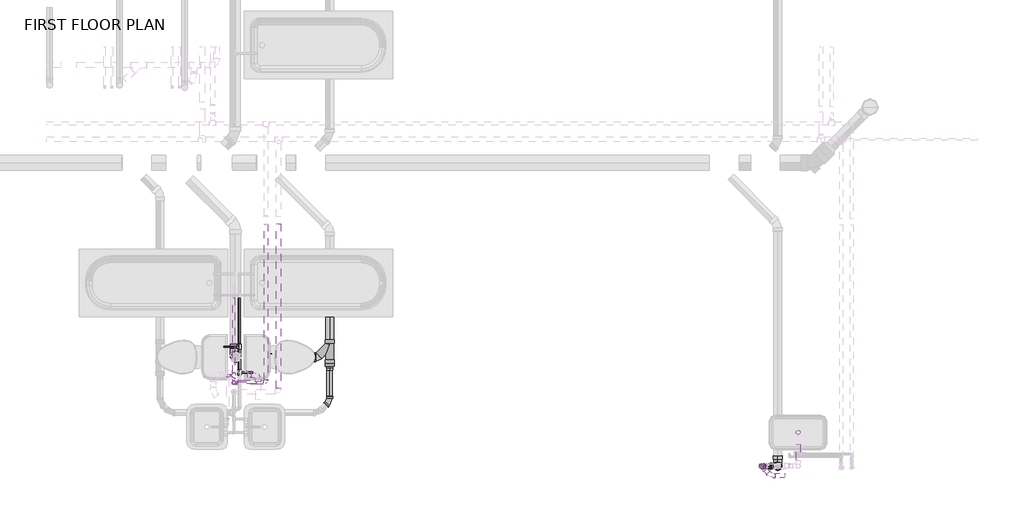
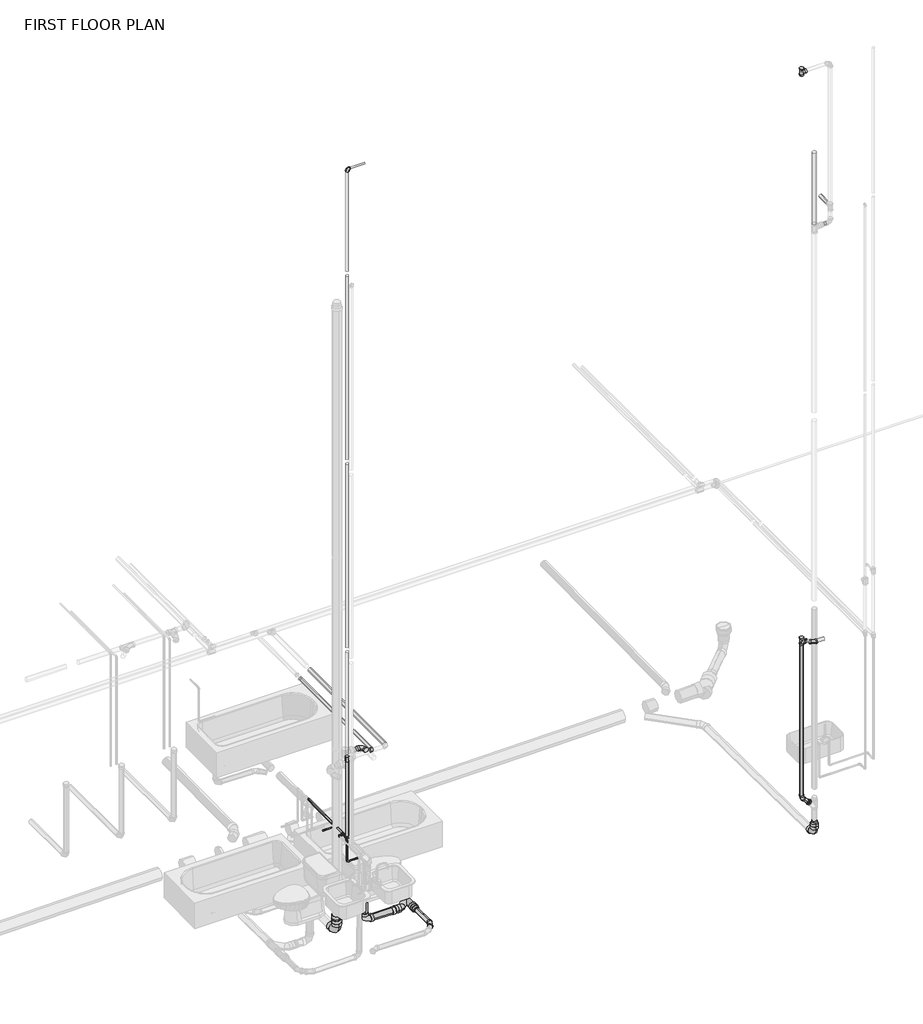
# One storey, part 22 of 29: 30 pipe fittings, 30 pipe segments.
"""IFC4 building model written with IfcOpenShell, lengths in millimetres."""

from ifc_helpers import new_model, si_unit, point, frame, frame_2d, origin, place, context, project, spatial, circle_curve, trimmed, segment, composite_curve, outline, extrude, transform, mapped, element, save
from components import bend_pvc_sch_40_dwv_standard_ddf7f1b2, bend_pvc_sch_40_dwv_standard_9a61ab34, bend_pvc_sch_40_dwv_standard_07560f8e, bend_pvc_sch_40_dwv_standard_577ceb7d, bend_pvc_sch_40_dwv_standard_00a057dc, bend_pvc_sch_40_dwv_standard_48e93688, bend_pvc_sch_40_dwv_standard_1fb0f857, pipe_elbow_copper_k_557be1fc, pipe_elbow_copper_k_feaaf02c, pipe_elbow_copper_k_aad62f2d, pipe_tee_copper_k_7127fd44, pipe_tee_copper_k_ee363fbf, pipe_tee_copper_k_feafe2f1, pipe_transition_copper_k_b4f16853, pipe_transition_copper_k_b63fd5dd, pipe_transition_copper_k_92c68de2, pipe_transition_copper_k_614bbec4, pipe_transition_copper_k_a236e899, reducer_pvc_sch_40_dwv_standard_b23fa098, reducer_pvc_sch_40_dwv_standard_f8e5081b, reducer_pvc_sch_40_dwv_standard_091619c8, reducer_pvc_sch_40_dwv_standard_716ddad6, standard_97f78eeb, tee_sanitary_pvc_sch_40_dwv_standard_31acfb72, tee_sanitary_pvc_sch_40_dwv_standard_70a8f0c3

model = new_model("IFC4")

# Units and contexts
model_context = context("Model", 3, world=origin())
ifc_project = project(units=[si_unit("LENGTHUNIT", "METRE", prefix="MILLI")], contexts=[model_context])

# Site, building, storey
site = spatial("IfcSite", under=ifc_project)
building = spatial("IfcBuilding", under=site)
storey = spatial("IfcBuildingStorey", under=building, Name="FIRST FLOOR PLAN", Elevation=0.0)

# Pipe fittings
placement = place(None, origin())
bend_pvc_sch_40_dwv_standard_shape = bend_pvc_sch_40_dwv_standard_ddf7f1b2(model_context)
element("IfcPipeFitting", 1, ObjectType="Bend - PVC - Sch 40 - DWV : Standard", at=placement, inside=storey, context=model_context, shape_type="MappedRepresentation", body=[
    mapped(bend_pvc_sch_40_dwv_standard_shape, transform((23061.4905896, 2089.9349386, -292.0344958), x_axis=(0.0, 0.0, -1.0), y_axis=(0.0, -1.0, 0.0), z_axis=(-1.0, 0.0, 0.0))),
])
bend_pvc_sch_40_dwv_standard_2_shape = bend_pvc_sch_40_dwv_standard_9a61ab34(model_context)
element("IfcPipeFitting", 2, ObjectType="Bend - PVC - Sch 40 - DWV : Standard", at=placement, inside=storey, context=model_context, shape_type="MappedRepresentation", body=[
    mapped(bend_pvc_sch_40_dwv_standard_2_shape, transform((22985.4285818, 1981.9339371, 2685.810937), x_axis=(-0.9999457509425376, 0.0, 0.010416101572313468), y_axis=(-4.542044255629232e-05, -0.9999904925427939, -0.004360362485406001), z_axis=(0.010416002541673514, -0.004360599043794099, 0.9999362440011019))),
])
bend_pvc_sch_40_dwv_standard_3_shape = bend_pvc_sch_40_dwv_standard_07560f8e(model_context)
element("IfcPipeFitting", 3, ObjectType="Bend - PVC - Sch 40 - DWV : Standard", at=placement, inside=storey, context=model_context, shape_type="MappedRepresentation", body=[
    mapped(bend_pvc_sch_40_dwv_standard_3_shape, transform((22877.6611988, 2088.8641446, 306.199447), x_axis=(0.0, 0.0, -1.0), y_axis=(-0.9999896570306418, -0.004548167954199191, 0.0), z_axis=(-0.004548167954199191, 0.9999896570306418, 0.0))),
])
bend_pvc_sch_40_dwv_standard_4_shape = bend_pvc_sch_40_dwv_standard_577ceb7d(model_context)
element("IfcPipeFitting", 4, ObjectType="Bend - PVC - Sch 40 - DWV : Standard", at=placement, inside=storey, context=model_context, shape_type="MappedRepresentation", body=[
    mapped(bend_pvc_sch_40_dwv_standard_4_shape, transform((18002.3665158, 2820.2387853, -343.5935323), x_axis=(0.0, -0.9999457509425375, 0.010416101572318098), y_axis=(0.9999906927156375, -4.493975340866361e-05, -0.004314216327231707), z_axis=(0.004314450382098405, 0.010416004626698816, 0.9999364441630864))),
])
bend_pvc_sch_40_dwv_standard_5_shape = bend_pvc_sch_40_dwv_standard_00a057dc(model_context)
element("IfcPipeFitting", 5, ObjectType="Bend - PVC - Sch 40 - DWV : Standard", at=placement, inside=storey, context=model_context, shape_type="MappedRepresentation", body=[
    mapped(bend_pvc_sch_40_dwv_standard_5_shape, transform((17330.0611046, 3320.3882896, -344.5003101), x_axis=(0.0, -5.143823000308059e-07, -0.9999999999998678), y_axis=(-1.0, -5.358148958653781e-09, 0.0), z_axis=(-5.35814895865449e-09, 0.9999999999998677, -5.143823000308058e-07))),
])
bend_pvc_sch_40_dwv_standard_6_shape = bend_pvc_sch_40_dwv_standard_48e93688(model_context)
element("IfcPipeFitting", 6, ObjectType="Bend - PVC - Sch 40 - DWV : Standard", at=placement, inside=storey, context=model_context, shape_type="MappedRepresentation", body=[
    mapped(bend_pvc_sch_40_dwv_standard_6_shape, transform((17195.9085473, 3120.4120638, 2438.4408802), x_axis=(0.9999989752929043, 0.0, -0.0014315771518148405), y_axis=(-1.2572891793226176e-08, 0.9999999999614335, -8.782538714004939e-06), z_axis=(0.0014315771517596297, 8.782547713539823e-06, 0.9999989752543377))),
])
bend_pvc_sch_40_dwv_standard_7_shape = bend_pvc_sch_40_dwv_standard_1fb0f857(model_context)
element("IfcPipeFitting", 7, ObjectType="Bend - PVC - Sch 40 - DWV : Standard", at=placement, inside=storey, context=model_context, shape_type="MappedRepresentation", body=[
    mapped(bend_pvc_sch_40_dwv_standard_7_shape, transform((16939.2381199, 3321.8387881, -380.8956327), x_axis=(0.0, -1.0, 0.0), y_axis=(1.76232445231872e-06, 0.0, 0.9999999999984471), z_axis=(-0.9999999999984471, 0.0, 1.76232445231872e-06))),
])
pipe_elbow_copper_k_shape = pipe_elbow_copper_k_557be1fc(model_context)
element("IfcPipeFitting", 8, ObjectType="Pipe Elbow : Copper- K", at=placement, inside=storey, context=model_context, shape_type="MappedRepresentation", body=[
    mapped(pipe_elbow_copper_k_shape, transform((17283.6898661, 3036.0137881, 2413.0), x_axis=(1.0, 0.0, 0.0), y_axis=(0.0, 1.0, 0.0), z_axis=(0.0, 0.0, 1.0))),
])
element("IfcPipeFitting", 9, ObjectType="Pipe Elbow : Copper- K", at=placement, inside=storey, context=model_context, shape_type="MappedRepresentation", body=[
    mapped(pipe_elbow_copper_k_shape, transform((16920.4834875, 3029.9911151, 11328.4), x_axis=(-1.0, 0.0, 0.0), y_axis=(0.0, 0.0, -1.0), z_axis=(0.0, -1.0, 0.0))),
])
pipe_elbow_copper_k_2_shape = pipe_elbow_copper_k_feaaf02c(model_context)
element("IfcPipeFitting", 10, ObjectType="Pipe Elbow : Copper- K", at=placement, inside=storey, context=model_context, shape_type="MappedRepresentation", body=[
    mapped(pipe_elbow_copper_k_2_shape, transform((16852.2209875, 3115.2451388, 1219.2), x_axis=(-1.0, 0.0, 0.0), y_axis=(0.0, -1.0, 0.0), z_axis=(0.0, 0.0, 1.0))),
])
element("IfcPipeFitting", 11, ObjectType="Pipe Elbow : Copper- K", at=placement, inside=storey, context=model_context, shape_type="MappedRepresentation", body=[
    mapped(pipe_elbow_copper_k_2_shape, transform((16920.4834875, 3029.9911151, 1219.2), x_axis=(0.0, -1.0, 0.0), y_axis=(0.0, 0.0, 1.0), z_axis=(-1.0, 0.0, 0.0))),
])
pipe_elbow_copper_k_3_shape = pipe_elbow_copper_k_aad62f2d(model_context)
element("IfcPipeFitting", 12, ObjectType="Pipe Elbow : Copper- K", at=placement, inside=storey, context=model_context, shape_type="MappedRepresentation", body=[
    mapped(pipe_elbow_copper_k_3_shape, transform((16983.9834875, 3144.8746817, 762.0), x_axis=(0.0, 0.0, -1.0), y_axis=(1.0, 0.0, 0.0), z_axis=(0.0, -1.0, 0.0))),
])
pipe_tee_copper_k_shape = pipe_tee_copper_k_7127fd44(model_context)
element("IfcPipeFitting", 13, ObjectType="Pipe Tee : Copper- K", at=placement, inside=storey, context=model_context, shape_type="MappedRepresentation", body=[
    mapped(pipe_tee_copper_k_shape, transform((16920.4834875, 3029.9911151, 2413.0), x_axis=(0.0, 0.0, 1.0), y_axis=(-1.0, 0.0, 0.0), z_axis=(0.0, -1.0, 0.0))),
])
pipe_tee_copper_k_2_shape = pipe_tee_copper_k_ee363fbf(model_context)
element("IfcPipeFitting", 14, ObjectType="Pipe Tee : Copper- K", at=placement, inside=storey, context=model_context, shape_type="MappedRepresentation", body=[
    mapped(pipe_tee_copper_k_2_shape, transform((16920.4834875, 3115.2451388, 1219.2), x_axis=(0.0, 1.0, 0.0), y_axis=(1.0, 0.0, 0.0), z_axis=(0.0, 0.0, -1.0))),
])
pipe_tee_copper_k_3_shape = pipe_tee_copper_k_feafe2f1(model_context)
element("IfcPipeFitting", 15, ObjectType="Pipe Tee : Copper- K", at=placement, inside=storey, context=model_context, shape_type="MappedRepresentation", body=[
    mapped(pipe_tee_copper_k_3_shape, transform((16983.9834875, 3144.8746817, 1117.6), x_axis=(0.0, -1.0, 0.0), y_axis=(0.0, 0.0, 1.0), z_axis=(-1.0, 0.0, 0.0))),
])
element("IfcPipeFitting", 16, ObjectType="Pipe Tee : Copper- K", at=placement, inside=storey, context=model_context, shape_type="MappedRepresentation", body=[
    mapped(pipe_tee_copper_k_3_shape, transform((16983.9834875, 3436.6777335, 1117.6), x_axis=(0.0, -1.0, 0.0), y_axis=(1.0, 0.0, 0.0), z_axis=(0.0, 0.0, 1.0))),
])
pipe_transition_copper_k_shape = pipe_transition_copper_k_b4f16853(model_context)
element("IfcPipeFitting", 17, ObjectType="Pipe Transition : Copper- K", at=placement, inside=storey, context=model_context, shape_type="MappedRepresentation", body=[
    mapped(pipe_transition_copper_k_shape, transform((16983.9834875, 3466.8402335, 1117.6), x_axis=(0.0, 1.0, 0.0), y_axis=(-1.0, 0.0, 0.0), z_axis=(0.0, 0.0, 1.0))),
])
pipe_transition_copper_k_2_shape = pipe_transition_copper_k_b63fd5dd(model_context)
element("IfcPipeFitting", 18, ObjectType="Pipe Transition : Copper- K", at=placement, inside=storey, context=model_context, shape_type="MappedRepresentation", body=[
    mapped(pipe_transition_copper_k_2_shape, transform((16983.9834875, 3144.8746817, 1087.4375), x_axis=(0.0, 0.0, -1.0), y_axis=(0.0, 1.0, 0.0), z_axis=(1.0, 0.0, 0.0))),
])
element("IfcPipeFitting", 19, ObjectType="Pipe Transition : Copper- K", at=placement, inside=storey, context=model_context, shape_type="MappedRepresentation", body=[
    mapped(pipe_transition_copper_k_2_shape, transform((16953.8209875, 3436.6777335, 1117.6), x_axis=(-1.0, 0.0, 0.0), y_axis=(0.0, -1.0, 0.0), z_axis=(0.0, 0.0, 1.0))),
])
pipe_transition_copper_k_3_shape = pipe_transition_copper_k_92c68de2(model_context)
element("IfcPipeFitting", 20, ObjectType="Pipe Transition : Copper- K", at=placement, inside=storey, context=model_context, shape_type="MappedRepresentation", body=[
    mapped(pipe_transition_copper_k_3_shape, transform((16950.6459875, 3029.9911151, 11328.4), x_axis=(1.0, 0.0, 0.0), y_axis=(0.0, 1.0, 0.0), z_axis=(0.0, 0.0, 1.0))),
])
pipe_transition_copper_k_4_shape = pipe_transition_copper_k_614bbec4(model_context)
element("IfcPipeFitting", 21, ObjectType="Pipe Transition : Copper- K", at=placement, inside=storey, context=model_context, shape_type="MappedRepresentation", body=[
    mapped(pipe_transition_copper_k_4_shape, transform((16920.4834875, 3029.9911151, 1239.8375), x_axis=(0.0, 0.0, 1.0), y_axis=(0.0, -1.0, 0.0), z_axis=(1.0, 0.0, 0.0))),
])
pipe_transition_copper_k_5_shape = pipe_transition_copper_k_a236e899(model_context)
element("IfcPipeFitting", 22, ObjectType="Pipe Transition : Copper- K", at=placement, inside=storey, context=model_context, shape_type="MappedRepresentation", body=[
    mapped(pipe_transition_copper_k_5_shape, transform((16956.9959875, 3029.9911151, 2413.0), x_axis=(1.0, 0.0, 0.0), y_axis=(0.0, 1.0, 0.0), z_axis=(0.0, 0.0, 1.0))),
])
reducer_pvc_sch_40_dwv_standard_shape = reducer_pvc_sch_40_dwv_standard_b23fa098(model_context)
element("IfcPipeFitting", 23, ObjectType="Reducer - PVC - Sch 40 - DWV : Standard", at=placement, inside=storey, context=model_context, shape_type="MappedRepresentation", body=[
    mapped(reducer_pvc_sch_40_dwv_standard_shape, transform((22989.8833827, 2089.3745552, 193.9792248), x_axis=(-0.7071093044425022, -0.0032160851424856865, 0.7070969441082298), y_axis=(0.004548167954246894, -0.9999896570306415, 0.0), z_axis=(0.7070896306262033, 0.003215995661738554, 0.7071166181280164))),
])
reducer_pvc_sch_40_dwv_standard_2_shape = reducer_pvc_sch_40_dwv_standard_f8e5081b(model_context)
element("IfcPipeFitting", 24, ObjectType="Reducer - PVC - Sch 40 - DWV : Standard", at=placement, inside=storey, context=model_context, shape_type="MappedRepresentation", body=[
    mapped(reducer_pvc_sch_40_dwv_standard_2_shape, transform((23061.4905896, 2089.9349386, -176.1342958), x_axis=(0.0, 0.0, 1.0), y_axis=(0.0, -1.0, 0.0), z_axis=(1.0, 0.0, 0.0))),
])
element("IfcPipeFitting", 25, ObjectType="Reducer - PVC - Sch 40 - DWV : Standard", at=placement, inside=storey, context=model_context, shape_type="MappedRepresentation", body=[
    mapped(reducer_pvc_sch_40_dwv_standard_2_shape, transform((18002.3665158, 3253.2931944, -348.1045157), x_axis=(0.0, -0.9999457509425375, 0.010416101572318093), y_axis=(0.9999457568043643, -0.00010848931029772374, -0.010414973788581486), z_axis=(0.01041553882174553, 0.010415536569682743, 0.999891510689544))),
])
reducer_pvc_sch_40_dwv_standard_3_shape = reducer_pvc_sch_40_dwv_standard_091619c8(model_context)
element("IfcPipeFitting", 26, ObjectType="Reducer - PVC - Sch 40 - DWV : Standard", at=placement, inside=storey, context=model_context, shape_type="MappedRepresentation", body=[
    mapped(reducer_pvc_sch_40_dwv_standard_3_shape, transform((17804.7398365, 3320.3882717, -346.7448111), x_axis=(-0.9999457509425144, 2.1621181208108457e-07, 0.01041610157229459), y_axis=(0.00010827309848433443, -0.9999457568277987, 0.010414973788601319), z_axis=(0.010415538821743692, 0.010415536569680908, 0.9998915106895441))),
])
reducer_pvc_sch_40_dwv_standard_4_shape = reducer_pvc_sch_40_dwv_standard_716ddad6(model_context)
element("IfcPipeFitting", 27, ObjectType="Reducer - PVC - Sch 40 - DWV : Standard", at=placement, inside=storey, context=model_context, shape_type="MappedRepresentation", body=[
    mapped(reducer_pvc_sch_40_dwv_standard_4_shape, transform((16939.2383717, 3321.8387881, -238.0206327), x_axis=(1.76232445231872e-06, 0.0, 0.9999999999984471), y_axis=(0.9999999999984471, 0.0, -1.76232445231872e-06), z_axis=(0.0, 1.0, 0.0))),
])
standard_shape = standard_97f78eeb(model_context)
element("IfcPipeFitting", 28, ObjectType="GES Wye Combination with 8th Bend - PVC - Sch 40 - DWV : Standard", at=placement, inside=storey, context=model_context, shape_type="MappedRepresentation", body=[
    mapped(standard_shape, transform((18002.3665158, 3320.3882289, -348.8034223), x_axis=(0.0, -0.9999457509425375, 0.010416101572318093), y_axis=(-0.9999457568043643, 0.00010848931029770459, 0.010414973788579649), z_axis=(-0.010415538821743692, -0.010415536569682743, -0.999891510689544))),
])
tee_sanitary_pvc_sch_40_dwv_standard_shape = tee_sanitary_pvc_sch_40_dwv_standard_31acfb72(model_context)
element("IfcPipeFitting", 29, ObjectType="Tee Sanitary - PVC - Sch 40 - DWV : Standard", at=placement, inside=storey, context=model_context, shape_type="MappedRepresentation", body=[
    mapped(tee_sanitary_pvc_sch_40_dwv_standard_shape, transform((22877.6611988, 2088.8641446, 2687.3998234), x_axis=(0.0, 0.0, 1.0), y_axis=(0.7098586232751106, -0.7043441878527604, 0.0), z_axis=(0.7043441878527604, 0.7098586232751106, 0.0))),
])
tee_sanitary_pvc_sch_40_dwv_standard_2_shape = tee_sanitary_pvc_sch_40_dwv_standard_70a8f0c3(model_context)
element("IfcPipeFitting", 30, ObjectType="Tee Sanitary - PVC - Sch 40 - DWV : Standard", at=placement, inside=storey, context=model_context, shape_type="MappedRepresentation", body=[
    mapped(tee_sanitary_pvc_sch_40_dwv_standard_2_shape, transform((22877.6611988, 2088.8641446, 11280.7857867), x_axis=(0.0, 0.0, -1.0), y_axis=(0.9999958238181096, 0.0028900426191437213, 0.0), z_axis=(0.0028900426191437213, -0.9999958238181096, 0.0))),
])

# Pipe segments
element("IfcPipeSegment", 31, ObjectType="Copper", at=placement, inside=storey, context=model_context, shape_type="SweptSolid", body=[
    extrude(outline(composite_curve([segment(trimmed(circle_curve(frame_2d((2413.0, 17283.6898661)), 20.6375), [point((2413.0, 17263.0523661))], [point((2392.3625, 17283.6898661))], False, "CARTESIAN"), True, "CONTINUOUS"), segment(trimmed(circle_curve(frame_2d((2413.0, 17283.6898661)), 20.6375), [point((2392.3625, 17283.6898661))], [point((2413.0, 17304.3273661))], False, "CARTESIAN"), True, "CONTINUOUS"), segment(trimmed(circle_curve(frame_2d((2413.0, 17283.6898661)), 20.6375), [point((2413.0, 17304.3273661))], [point((2433.6375, 17283.6898661))], False, "CARTESIAN"), True, "CONTINUOUS"), segment(trimmed(circle_curve(frame_2d((2413.0, 17283.6898661)), 20.6375), [point((2433.6375, 17283.6898661))], [point((2413.0, 17263.0523661))], False, "CARTESIAN"), True, "CONTINUOUS")], self_intersect=False)), frame((0.0, 3066.1762881, 0.0), z_axis=(0.0, 1.0, 0.0), x_axis=(0.0, 0.0, 1.0)), (0.0, 0.0, 1.0), 1753.028625),
])
element("IfcPipeSegment", 32, ObjectType="Copper", at=placement, inside=storey, context=model_context, shape_type="SweptSolid", body=[
    extrude(outline(composite_curve([segment(trimmed(circle_curve(frame_2d((2490.6882812, 17424.5084875)), 26.9875), [point((2490.6882812, 17397.5209875))], [point((2463.7007812, 17424.5084875))], False, "CARTESIAN"), True, "CONTINUOUS"), segment(trimmed(circle_curve(frame_2d((2490.6882812, 17424.5084875)), 26.9875), [point((2463.7007812, 17424.5084875))], [point((2490.6882812, 17451.4959875))], False, "CARTESIAN"), True, "CONTINUOUS"), segment(trimmed(circle_curve(frame_2d((2490.6882812, 17424.5084875)), 26.9875), [point((2490.6882812, 17451.4959875))], [point((2517.6757812, 17424.5084875))], False, "CARTESIAN"), True, "CONTINUOUS"), segment(trimmed(circle_curve(frame_2d((2490.6882812, 17424.5084875)), 26.9875), [point((2517.6757812, 17424.5084875))], [point((2490.6882812, 17397.5209875))], False, "CARTESIAN"), True, "CONTINUOUS")], self_intersect=False)), frame((0.0, 2966.355973, 0.0), z_axis=(0.0, 1.0, 0.0), x_axis=(0.0, 0.0, 1.0)), (0.0, 0.0, 1.0), 1859.595815),
])
element("IfcPipeSegment", 33, ObjectType="Copper", at=placement, inside=storey, context=model_context, shape_type="SweptSolid", body=[
    extrude(outline(composite_curve([segment(trimmed(circle_curve(frame_2d((3036.0137881, 2413.0)), 20.6375), [point((3015.3762881, 2413.0))], [point((3036.0137881, 2433.6375))], False, "CARTESIAN"), True, "CONTINUOUS"), segment(trimmed(circle_curve(frame_2d((3036.0137881, 2413.0)), 20.6375), [point((3036.0137881, 2433.6375))], [point((3056.6512881, 2413.0))], False, "CARTESIAN"), True, "CONTINUOUS"), segment(trimmed(circle_curve(frame_2d((3036.0137881, 2413.0)), 20.6375), [point((3056.6512881, 2413.0))], [point((3036.0137881, 2392.3625))], False, "CARTESIAN"), True, "CONTINUOUS"), segment(trimmed(circle_curve(frame_2d((3036.0137881, 2413.0)), 20.6375), [point((3036.0137881, 2392.3625))], [point((3015.3762881, 2413.0))], False, "CARTESIAN"), True, "CONTINUOUS")], self_intersect=False)), frame((16962.1553625, 0.0, 0.0), z_axis=(1.0, 0.0, 0.0), x_axis=(0.0, 1.0, 0.0)), (0.0, 0.0, 1.0), 291.3720036),
])
element("IfcPipeSegment", 34, ObjectType="Copper", at=placement, inside=storey, context=model_context, shape_type="SweptSolid", body=[
    extrude(outline(composite_curve([segment(trimmed(circle_curve(frame_2d((16920.4834875, 3029.9911151)), 20.6375), [point((16899.8459875, 3029.9911151))], [point((16920.4834875, 3050.6286151))], False, "CARTESIAN"), True, "CONTINUOUS"), segment(trimmed(circle_curve(frame_2d((16920.4834875, 3029.9911151)), 20.6375), [point((16920.4834875, 3050.6286151))], [point((16941.1209875, 3029.9911151))], False, "CARTESIAN"), True, "CONTINUOUS"), segment(trimmed(circle_curve(frame_2d((16920.4834875, 3029.9911151)), 20.6375), [point((16941.1209875, 3029.9911151))], [point((16920.4834875, 3009.3536151))], False, "CARTESIAN"), True, "CONTINUOUS"), segment(trimmed(circle_curve(frame_2d((16920.4834875, 3029.9911151)), 20.6375), [point((16920.4834875, 3009.3536151))], [point((16899.8459875, 3029.9911151))], False, "CARTESIAN"), True, "CONTINUOUS")], self_intersect=False)), frame((0.0, 0.0, 2449.5125), z_axis=(0.0, 0.0, 1.0), x_axis=(1.0, 0.0, 0.0)), (0.0, 0.0, 1.0), 1577.975),
])
element("IfcPipeSegment", 35, ObjectType="Copper", at=placement, inside=storey, context=model_context, shape_type="SweptSolid", body=[
    extrude(outline(composite_curve([segment(trimmed(circle_curve(frame_2d((3115.2451388, 1219.2)), 11.1125), [point((3104.1326388, 1219.2))], [point((3115.2451388, 1230.3125))], False, "CARTESIAN"), True, "CONTINUOUS"), segment(trimmed(circle_curve(frame_2d((3115.2451388, 1219.2)), 11.1125), [point((3115.2451388, 1230.3125))], [point((3126.3576388, 1219.2))], False, "CARTESIAN"), True, "CONTINUOUS"), segment(trimmed(circle_curve(frame_2d((3115.2451388, 1219.2)), 11.1125), [point((3126.3576388, 1219.2))], [point((3115.2451388, 1208.0875))], False, "CARTESIAN"), True, "CONTINUOUS"), segment(trimmed(circle_curve(frame_2d((3115.2451388, 1219.2)), 11.1125), [point((3115.2451388, 1208.0875))], [point((3104.1326388, 1219.2))], False, "CARTESIAN"), True, "CONTINUOUS")], self_intersect=False)), frame((16872.8584875, 0.0, 0.0), z_axis=(1.0, 0.0, 0.0), x_axis=(0.0, 1.0, 0.0)), (0.0, 0.0, 1.0), 20.6375),
])
element("IfcPipeSegment", 36, ObjectType="Copper", at=placement, inside=storey, context=model_context, shape_type="SweptSolid", body=[
    extrude(outline(composite_curve([segment(trimmed(circle_curve(frame_2d((3144.8746817, 762.0)), 7.9375), [point((3136.9371817, 762.0))], [point((3144.8746817, 769.9375))], False, "CARTESIAN"), True, "CONTINUOUS"), segment(trimmed(circle_curve(frame_2d((3144.8746817, 762.0)), 7.9375), [point((3144.8746817, 769.9375))], [point((3152.8121817, 762.0))], False, "CARTESIAN"), True, "CONTINUOUS"), segment(trimmed(circle_curve(frame_2d((3144.8746817, 762.0)), 7.9375), [point((3152.8121817, 762.0))], [point((3144.8746817, 754.0625))], False, "CARTESIAN"), True, "CONTINUOUS"), segment(trimmed(circle_curve(frame_2d((3144.8746817, 762.0)), 7.9375), [point((3144.8746817, 754.0625))], [point((3136.9371817, 762.0))], False, "CARTESIAN"), True, "CONTINUOUS")], self_intersect=False)), frame((17001.4459875, 0.0, 0.0), z_axis=(1.0, 0.0, 0.0), x_axis=(0.0, 1.0, 0.0)), (0.0, 0.0, 1.0), 134.9375),
])
element("IfcPipeSegment", 37, ObjectType="Copper", at=placement, inside=storey, context=model_context, shape_type="SweptSolid", body=[
    extrude(outline(composite_curve([segment(trimmed(circle_curve(frame_2d((16983.9834875, 3144.8746817)), 7.9375), [point((16991.9209875, 3144.8746817))], [point((16983.9834875, 3136.9371817))], False, "CARTESIAN"), True, "CONTINUOUS"), segment(trimmed(circle_curve(frame_2d((16983.9834875, 3144.8746817)), 7.9375), [point((16983.9834875, 3136.9371817))], [point((16976.0459875, 3144.8746817))], False, "CARTESIAN"), True, "CONTINUOUS"), segment(trimmed(circle_curve(frame_2d((16983.9834875, 3144.8746817)), 7.9375), [point((16976.0459875, 3144.8746817))], [point((16983.9834875, 3152.8121817))], False, "CARTESIAN"), True, "CONTINUOUS"), segment(trimmed(circle_curve(frame_2d((16983.9834875, 3144.8746817)), 7.9375), [point((16983.9834875, 3152.8121817))], [point((16991.9209875, 3144.8746817))], False, "CARTESIAN"), True, "CONTINUOUS")], self_intersect=False)), frame((0.0, 0.0, 779.4625), z_axis=(0.0, 0.0, 1.0), x_axis=(1.0, 0.0, 0.0)), (0.0, 0.0, 1.0), 300.83125),
])
element("IfcPipeSegment", 38, ObjectType="Copper", at=placement, inside=storey, context=model_context, shape_type="SweptSolid", body=[
    extrude(outline(composite_curve([segment(trimmed(circle_curve(frame_2d((3436.6777335, 1117.6)), 7.9375), [point((3444.6152335, 1117.6))], [point((3436.6777335, 1109.6625))], False, "CARTESIAN"), True, "CONTINUOUS"), segment(trimmed(circle_curve(frame_2d((3436.6777335, 1117.6)), 7.9375), [point((3436.6777335, 1109.6625))], [point((3428.7402335, 1117.6))], False, "CARTESIAN"), True, "CONTINUOUS"), segment(trimmed(circle_curve(frame_2d((3436.6777335, 1117.6)), 7.9375), [point((3428.7402335, 1117.6))], [point((3436.6777335, 1125.5375))], False, "CARTESIAN"), True, "CONTINUOUS"), segment(trimmed(circle_curve(frame_2d((3436.6777335, 1117.6)), 7.9375), [point((3436.6777335, 1125.5375))], [point((3444.6152335, 1117.6))], False, "CARTESIAN"), True, "CONTINUOUS")], self_intersect=False)), frame((16806.1834875, 0.0, 0.0), z_axis=(1.0, 0.0, 0.0), x_axis=(0.0, 1.0, 0.0)), (0.0, 0.0, 1.0), 140.49375),
])
element("IfcPipeSegment", 39, ObjectType="Copper", at=placement, inside=storey, context=model_context, shape_type="SweptSolid", body=[
    extrude(outline(composite_curve([segment(trimmed(circle_curve(frame_2d((1117.6, 16983.9834875)), 14.2875), [point((1117.6, 16998.2709875))], [point((1131.8875, 16983.9834875))], False, "CARTESIAN"), True, "CONTINUOUS"), segment(trimmed(circle_curve(frame_2d((1117.6, 16983.9834875)), 14.2875), [point((1131.8875, 16983.9834875))], [point((1117.6, 16969.6959875))], False, "CARTESIAN"), True, "CONTINUOUS"), segment(trimmed(circle_curve(frame_2d((1117.6, 16983.9834875)), 14.2875), [point((1117.6, 16969.6959875))], [point((1103.3125, 16983.9834875))], False, "CARTESIAN"), True, "CONTINUOUS"), segment(trimmed(circle_curve(frame_2d((1117.6, 16983.9834875)), 14.2875), [point((1103.3125, 16983.9834875))], [point((1117.6, 16998.2709875))], False, "CARTESIAN"), True, "CONTINUOUS")], self_intersect=False)), frame((0.0, 3175.0371817, 0.0), z_axis=(0.0, 1.0, 0.0), x_axis=(0.0, 0.0, 1.0)), (0.0, 0.0, 1.0), 231.4780518),
])
element("IfcPipeSegment", 40, ObjectType="Copper", at=placement, inside=storey, context=model_context, shape_type="SweptSolid", body=[
    extrude(outline(composite_curve([segment(trimmed(circle_curve(frame_2d((1117.6, 16983.9834875)), 11.1125), [point((1117.6, 16995.0959875))], [point((1128.7125, 16983.9834875))], False, "CARTESIAN"), True, "CONTINUOUS"), segment(trimmed(circle_curve(frame_2d((1117.6, 16983.9834875)), 11.1125), [point((1128.7125, 16983.9834875))], [point((1117.6, 16972.8709875))], False, "CARTESIAN"), True, "CONTINUOUS"), segment(trimmed(circle_curve(frame_2d((1117.6, 16983.9834875)), 11.1125), [point((1117.6, 16972.8709875))], [point((1106.4875, 16983.9834875))], False, "CARTESIAN"), True, "CONTINUOUS"), segment(trimmed(circle_curve(frame_2d((1117.6, 16983.9834875)), 11.1125), [point((1106.4875, 16983.9834875))], [point((1117.6, 16995.0959875))], False, "CARTESIAN"), True, "CONTINUOUS")], self_intersect=False)), frame((0.0, 3473.9839835, 0.0), z_axis=(0.0, 1.0, 0.0), x_axis=(0.0, 0.0, 1.0)), (0.0, 0.0, 1.0), 517.2338736),
])
element("IfcPipeSegment", 41, ObjectType="Copper", at=placement, inside=storey, context=model_context, shape_type="SweptSolid", body=[
    extrude(outline(composite_curve([segment(trimmed(circle_curve(frame_2d((0.0, -11.1125)), 11.1125), [point((0.0, 0.0))], [point((11.1125, -11.1125))], False, "CARTESIAN"), True, "CONTINUOUS"), segment(trimmed(circle_curve(frame_2d((0.0, -11.1125)), 11.1125), [point((11.1125, -11.1125))], [point((0.0, -22.225))], False, "CARTESIAN"), True, "CONTINUOUS"), segment(trimmed(circle_curve(frame_2d((0.0, -11.1125)), 11.1125), [point((0.0, -22.225))], [point((-11.1125, -11.1125))], False, "CARTESIAN"), True, "CONTINUOUS"), segment(trimmed(circle_curve(frame_2d((0.0, -11.1125)), 11.1125), [point((-11.1125, -11.1125))], [point((0.0, 0.0))], False, "CARTESIAN"), True, "CONTINUOUS")], self_intersect=False)), frame((16909.3709875, 3050.6286151, 1219.2), z_axis=(1.7783869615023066e-12, 1.0, 0.0), x_axis=(0.0, 0.0, -1.0)), (0.0, 0.0, 1.0), 37.6290237),
])
element("IfcPipeSegment", 42, ObjectType="Copper", at=placement, inside=storey, context=model_context, shape_type="SweptSolid", body=[
    extrude(outline(composite_curve([segment(trimmed(circle_curve(frame_2d((1219.2, 16920.4834875)), 11.1125), [point((1219.2, 16909.3709875))], [point((1208.0875, 16920.4834875))], False, "CARTESIAN"), True, "CONTINUOUS"), segment(trimmed(circle_curve(frame_2d((1219.2, 16920.4834875)), 11.1125), [point((1208.0875, 16920.4834875))], [point((1219.2, 16931.5959875))], False, "CARTESIAN"), True, "CONTINUOUS"), segment(trimmed(circle_curve(frame_2d((1219.2, 16920.4834875)), 11.1125), [point((1219.2, 16931.5959875))], [point((1230.3125, 16920.4834875))], False, "CARTESIAN"), True, "CONTINUOUS"), segment(trimmed(circle_curve(frame_2d((1219.2, 16920.4834875)), 11.1125), [point((1230.3125, 16920.4834875))], [point((1219.2, 16909.3709875))], False, "CARTESIAN"), True, "CONTINUOUS")], self_intersect=False)), frame((0.0, 3142.2326388, 0.0), z_axis=(0.0, 1.0, 0.0), x_axis=(0.0, 0.0, 1.0)), (0.0, 0.0, 1.0), 848.9852183),
])
element("IfcPipeSegment", 43, ObjectType="Copper", at=placement, inside=storey, context=model_context, shape_type="SweptSolid", body=[
    extrude(outline(composite_curve([segment(trimmed(circle_curve(frame_2d((16920.4834875, 3029.9911151)), 20.6375), [point((16899.8459875, 3029.9911151))], [point((16920.4834875, 3050.6286151))], False, "CARTESIAN"), True, "CONTINUOUS"), segment(trimmed(circle_curve(frame_2d((16920.4834875, 3029.9911151)), 20.6375), [point((16920.4834875, 3050.6286151))], [point((16941.1209875, 3029.9911151))], False, "CARTESIAN"), True, "CONTINUOUS"), segment(trimmed(circle_curve(frame_2d((16920.4834875, 3029.9911151)), 20.6375), [point((16941.1209875, 3029.9911151))], [point((16920.4834875, 3009.3536151))], False, "CARTESIAN"), True, "CONTINUOUS"), segment(trimmed(circle_curve(frame_2d((16920.4834875, 3029.9911151)), 20.6375), [point((16920.4834875, 3009.3536151))], [point((16899.8459875, 3029.9911151))], False, "CARTESIAN"), True, "CONTINUOUS")], self_intersect=False)), frame((0.0, 0.0, 4100.5125), z_axis=(0.0, 0.0, 1.0), x_axis=(1.0, 0.0, 0.0)), (0.0, 0.0, 1.0), 2771.775),
])
element("IfcPipeSegment", 44, ObjectType="Copper", at=placement, inside=storey, context=model_context, shape_type="SweptSolid", body=[
    extrude(outline(composite_curve([segment(trimmed(circle_curve(frame_2d((16920.4834875, 3029.9911151)), 20.6375), [point((16941.1209875, 3029.9911151))], [point((16920.4834875, 3009.3536151))], False, "CARTESIAN"), True, "CONTINUOUS"), segment(trimmed(circle_curve(frame_2d((16920.4834875, 3029.9911151)), 20.6375), [point((16920.4834875, 3009.3536151))], [point((16899.8459875, 3029.9911151))], False, "CARTESIAN"), True, "CONTINUOUS"), segment(trimmed(circle_curve(frame_2d((16920.4834875, 3029.9911151)), 20.6375), [point((16899.8459875, 3029.9911151))], [point((16920.4834875, 3050.6286151))], False, "CARTESIAN"), True, "CONTINUOUS"), segment(trimmed(circle_curve(frame_2d((16920.4834875, 3029.9911151)), 20.6375), [point((16920.4834875, 3050.6286151))], [point((16941.1209875, 3029.9911151))], False, "CARTESIAN"), True, "CONTINUOUS")], self_intersect=False)), frame((0.0, 0.0, 6945.3125), z_axis=(0.0, 0.0, 1.0), x_axis=(1.0, 0.0, 0.0)), (0.0, 0.0, 1.0), 2771.775),
])
element("IfcPipeSegment", 45, ObjectType="Copper", at=placement, inside=storey, context=model_context, shape_type="SweptSolid", body=[
    extrude(outline(composite_curve([segment(trimmed(circle_curve(frame_2d((16920.4834875, 3029.9911151)), 20.6375), [point((16899.8459875, 3029.9911151))], [point((16920.4834875, 3050.6286151))], False, "CARTESIAN"), True, "CONTINUOUS"), segment(trimmed(circle_curve(frame_2d((16920.4834875, 3029.9911151)), 20.6375), [point((16920.4834875, 3050.6286151))], [point((16941.1209875, 3029.9911151))], False, "CARTESIAN"), True, "CONTINUOUS"), segment(trimmed(circle_curve(frame_2d((16920.4834875, 3029.9911151)), 20.6375), [point((16941.1209875, 3029.9911151))], [point((16920.4834875, 3009.3536151))], False, "CARTESIAN"), True, "CONTINUOUS"), segment(trimmed(circle_curve(frame_2d((16920.4834875, 3029.9911151)), 20.6375), [point((16920.4834875, 3009.3536151))], [point((16899.8459875, 3029.9911151))], False, "CARTESIAN"), True, "CONTINUOUS")], self_intersect=False)), frame((0.0, 0.0, 1244.996875), z_axis=(0.0, 0.0, 1.0), x_axis=(1.0, 0.0, 0.0)), (0.0, 0.0, 1.0), 1131.490625),
])
element("IfcPipeSegment", 46, ObjectType="Copper", at=placement, inside=storey, context=model_context, shape_type="SweptSolid", body=[
    extrude(outline(composite_curve([segment(trimmed(circle_curve(frame_2d((3029.9911151, 11328.4)), 11.1125), [point((3041.1036151, 11328.4))], [point((3029.9911151, 11317.2875))], False, "CARTESIAN"), True, "CONTINUOUS"), segment(trimmed(circle_curve(frame_2d((3029.9911151, 11328.4)), 11.1125), [point((3029.9911151, 11317.2875))], [point((3018.8786151, 11328.4))], False, "CARTESIAN"), True, "CONTINUOUS"), segment(trimmed(circle_curve(frame_2d((3029.9911151, 11328.4)), 11.1125), [point((3018.8786151, 11328.4))], [point((3029.9911151, 11339.5125))], False, "CARTESIAN"), True, "CONTINUOUS"), segment(trimmed(circle_curve(frame_2d((3029.9911151, 11328.4)), 11.1125), [point((3029.9911151, 11339.5125))], [point((3041.1036151, 11328.4))], False, "CARTESIAN"), True, "CONTINUOUS")], self_intersect=False)), frame((16960.9647375, 0.0, 0.0), z_axis=(1.0, 0.0, 0.0), x_axis=(0.0, 1.0, 0.0)), (0.0, 0.0, 1.0), 213.8554006),
])
element("IfcPipeSegment", 47, ObjectType="Copper", at=placement, inside=storey, context=model_context, shape_type="SweptSolid", body=[
    extrude(outline(composite_curve([segment(trimmed(circle_curve(frame_2d((16920.4834875, 3029.9911151)), 20.6375), [point((16941.1209875, 3029.9911151))], [point((16920.4834875, 3009.3536151))], False, "CARTESIAN"), True, "CONTINUOUS"), segment(trimmed(circle_curve(frame_2d((16920.4834875, 3029.9911151)), 20.6375), [point((16920.4834875, 3009.3536151))], [point((16899.8459875, 3029.9911151))], False, "CARTESIAN"), True, "CONTINUOUS"), segment(trimmed(circle_curve(frame_2d((16920.4834875, 3029.9911151)), 20.6375), [point((16899.8459875, 3029.9911151))], [point((16920.4834875, 3050.6286151))], False, "CARTESIAN"), True, "CONTINUOUS"), segment(trimmed(circle_curve(frame_2d((16920.4834875, 3029.9911151)), 20.6375), [point((16920.4834875, 3050.6286151))], [point((16941.1209875, 3029.9911151))], False, "CARTESIAN"), True, "CONTINUOUS")], self_intersect=False)), frame((0.0, 0.0, 9790.1125), z_axis=(0.0, 0.0, 1.0), x_axis=(1.0, 0.0, 0.0)), (0.0, 0.0, 1.0), 1508.125),
])
element("IfcPipeSegment", 48, ObjectType="PVC - SAN/STORM", at=placement, inside=storey, context=model_context, shape_type="SweptSolid", body=[
    extrude(outline(composite_curve([segment(trimmed(circle_curve(frame_2d((23061.4980301, 2089.9069038)), 30.1625), [point((23031.3355301, 2089.9069038))], [point((23061.4980301, 2120.0694038))], False, "CARTESIAN"), True, "CONTINUOUS"), segment(trimmed(circle_curve(frame_2d((23061.4980301, 2089.9069038)), 30.1625), [point((23061.4980301, 2120.0694038))], [point((23091.6605301, 2089.9069038))], False, "CARTESIAN"), True, "CONTINUOUS"), segment(trimmed(circle_curve(frame_2d((23061.4980301, 2089.9069038)), 30.1625), [point((23091.6605301, 2089.9069038))], [point((23061.4980301, 2059.7444038))], False, "CARTESIAN"), True, "CONTINUOUS"), segment(trimmed(circle_curve(frame_2d((23061.4980301, 2089.9069038)), 30.1625), [point((23061.4980301, 2059.7444038))], [point((23031.3355301, 2089.9069038))], False, "CARTESIAN"), True, "CONTINUOUS")], self_intersect=False)), frame((0.0, 0.0, 8923.499597), z_axis=(0.0, 0.0, 1.0), x_axis=(1.0, 0.0, 0.0)), (0.0, 0.0, 1.0), 1081.0924419),
])
element("IfcPipeSegment", 49, ObjectType="PVC - SAN/STORM", at=placement, inside=storey, context=model_context, shape_type="SweptSolid", body=[
    extrude(outline(composite_curve([segment(trimmed(circle_curve(frame_2d((0.0, -24.13)), 24.13), [point((-24.13, -24.13))], [point((0.0, 0.0))], False, "CARTESIAN"), True, "CONTINUOUS"), segment(trimmed(circle_curve(frame_2d((0.0, -24.13)), 24.13), [point((0.0, 0.0))], [point((24.13, -24.13))], False, "CARTESIAN"), True, "CONTINUOUS"), segment(trimmed(circle_curve(frame_2d((0.0, -24.13)), 24.13), [point((24.13, -24.13))], [point((0.0, -48.2600001))], False, "CARTESIAN"), True, "CONTINUOUS"), segment(trimmed(circle_curve(frame_2d((0.0, -24.13)), 24.13), [point((0.0, -48.2600001))], [point((-24.13, -24.13))], False, "CARTESIAN"), True, "CONTINUOUS")], self_intersect=False)), frame((23291.1209875, 2151.8490706, 9088.9331025), z_axis=(0.0, 0.9999457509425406, 0.010416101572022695), x_axis=(1.0, 0.0, 0.0)), (0.0, 0.0, 1.0), 182.6011639),
])
element("IfcPipeSegment", 50, ObjectType="PVC - SAN/STORM", at=placement, inside=storey, context=model_context, shape_type="SweptSolid", body=[
    extrude(outline(composite_curve([segment(trimmed(circle_curve(frame_2d((23291.1209875, 2469.1137881)), 24.13), [point((23266.9909875, 2469.1137881))], [point((23291.1209875, 2493.2437881))], False, "CARTESIAN"), True, "CONTINUOUS"), segment(trimmed(circle_curve(frame_2d((23291.1209875, 2469.1137881)), 24.13), [point((23291.1209875, 2493.2437881))], [point((23315.2509875, 2469.1137881))], False, "CARTESIAN"), True, "CONTINUOUS"), segment(trimmed(circle_curve(frame_2d((23291.1209875, 2469.1137881)), 24.13), [point((23315.2509875, 2469.1137881))], [point((23291.1209875, 2444.9837881))], False, "CARTESIAN"), True, "CONTINUOUS"), segment(trimmed(circle_curve(frame_2d((23291.1209875, 2469.1137881)), 24.13), [point((23291.1209875, 2444.9837881))], [point((23266.9909875, 2469.1137881))], False, "CARTESIAN"), True, "CONTINUOUS")], self_intersect=False)), frame((0.0, 0.0, 9070.5010858), z_axis=(0.0, 0.0, 1.0), x_axis=(1.0, 0.0, 0.0)), (0.0, 0.0, 1.0), 139.7),
])
element("IfcPipeSegment", 51, ObjectType="PVC - SAN/STORM", at=placement, inside=storey, context=model_context, shape_type="SweptSolid", body=[
    extrude(outline(composite_curve([segment(trimmed(circle_curve(frame_2d((0.0, 24.13)), 24.13), [point((0.0, 0.0))], [point((-24.1299999, 24.13))], False, "CARTESIAN"), True, "CONTINUOUS"), segment(trimmed(circle_curve(frame_2d((0.0, 24.13)), 24.13), [point((-24.1299999, 24.13))], [point((0.0, 48.26))], False, "CARTESIAN"), True, "CONTINUOUS"), segment(trimmed(circle_curve(frame_2d((0.0, 24.13)), 24.13), [point((0.0, 48.26))], [point((24.13, 24.13))], False, "CARTESIAN"), True, "CONTINUOUS"), segment(trimmed(circle_curve(frame_2d((0.0, 24.13)), 24.13), [point((24.13, 24.13))], [point((0.0, 0.0))], False, "CARTESIAN"), True, "CONTINUOUS")], self_intersect=False)), frame((23189.4986993, 2065.5712881, 8871.1197117), z_axis=(0.9999457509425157, 0.0, 0.010416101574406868), x_axis=(0.010416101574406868, 0.0, -0.9999457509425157)), (0.0, 0.0, 1.0), 39.7236632),
])
element("IfcPipeSegment", 52, ObjectType="PVC - SAN/STORM", at=placement, inside=storey, context=model_context, shape_type="SweptSolid", body=[
    extrude(outline(composite_curve([segment(trimmed(circle_curve(frame_2d((0.0, 24.13)), 24.13), [point((0.0, 48.26))], [point((24.13, 24.13))], False, "CARTESIAN"), True, "CONTINUOUS"), segment(trimmed(circle_curve(frame_2d((0.0, 24.13)), 24.13), [point((24.13, 24.13))], [point((0.0, 0.0))], False, "CARTESIAN"), True, "CONTINUOUS"), segment(trimmed(circle_curve(frame_2d((0.0, 24.13)), 24.13), [point((0.0, 0.0))], [point((-24.13, 24.13))], False, "CARTESIAN"), True, "CONTINUOUS"), segment(trimmed(circle_curve(frame_2d((0.0, 24.13)), 24.13), [point((-24.13, 24.13))], [point((0.0, 48.26))], False, "CARTESIAN"), True, "CONTINUOUS")], self_intersect=False)), frame((23137.3520332, 1957.8039371, 2684.2284011), z_axis=(-0.9999457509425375, 0.0, 0.010416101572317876), x_axis=(0.010416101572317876, 0.0, 0.9999457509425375)), (0.0, 0.0, 1.0), 105.9068936),
])
element("IfcPipeSegment", 53, ObjectType="PVC - SAN/STORM", at=placement, inside=storey, context=model_context, shape_type="SweptSolid", body=[
    extrude(outline(composite_curve([segment(trimmed(circle_curve(frame_2d((0.0, 24.13)), 24.13), [point((24.128658, 24.3844918))], [point((0.2544918, 0.001342))], False, "CARTESIAN"), True, "CONTINUOUS"), segment(trimmed(circle_curve(frame_2d((0.0, 24.13)), 24.13), [point((0.2544918, 0.001342))], [point((-24.1286579, 23.8755083))], False, "CARTESIAN"), True, "CONTINUOUS"), segment(trimmed(circle_curve(frame_2d((0.0, 24.13)), 24.13), [point((-24.1286579, 23.8755083))], [point((-0.2544917, 48.258658))], False, "CARTESIAN"), True, "CONTINUOUS"), segment(trimmed(circle_curve(frame_2d((0.0, 24.13)), 24.13), [point((-0.2544917, 48.258658))], [point((24.128658, 24.3844918))], False, "CARTESIAN"), True, "CONTINUOUS")], self_intersect=False)), frame((22952.7592698, 2013.9909518, 2710.4199391), z_axis=(-0.7098197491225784, 0.704305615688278, 0.010465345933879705), x_axis=(0.7043833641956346, 0.7097414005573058, 0.010546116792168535)), (0.0, 0.0, 1.0), 43.8989906),
])
element("IfcPipeSegment", 54, ObjectType="PVC - SAN/STORM", at=placement, inside=storey, context=model_context, shape_type="SweptSolid", body=[
    extrude(outline(composite_curve([segment(trimmed(circle_curve(frame_2d((22877.6611988, 2088.8641446)), 24.13), [point((22901.7911988, 2088.8641446))], [point((22877.6611988, 2064.7341446))], False, "CARTESIAN"), True, "CONTINUOUS"), segment(trimmed(circle_curve(frame_2d((22877.6611988, 2088.8641446)), 24.13), [point((22877.6611988, 2064.7341446))], [point((22853.5311988, 2088.8641446))], False, "CARTESIAN"), True, "CONTINUOUS"), segment(trimmed(circle_curve(frame_2d((22877.6611988, 2088.8641446)), 24.13), [point((22853.5311988, 2088.8641446))], [point((22877.6611988, 2112.9941446))], False, "CARTESIAN"), True, "CONTINUOUS"), segment(trimmed(circle_curve(frame_2d((22877.6611988, 2088.8641446)), 24.13), [point((22877.6611988, 2112.9941446))], [point((22901.7911988, 2088.8641446))], False, "CARTESIAN"), True, "CONTINUOUS")], self_intersect=False)), frame((0.0, 0.0, 349.049247), z_axis=(0.0, 0.0, 1.0), x_axis=(1.0, 0.0, 0.0)), (0.0, 0.0, 1.0), 2276.4507764),
])
element("IfcPipeSegment", 55, ObjectType="PVC - SAN/STORM", at=placement, inside=storey, context=model_context, shape_type="SweptSolid", body=[
    extrude(outline(composite_curve([segment(trimmed(circle_curve(frame_2d((0.0, -24.13)), 24.13), [point((0.1552067, -48.2595008))], [point((-24.1295008, -24.2852067))], False, "CARTESIAN"), True, "CONTINUOUS"), segment(trimmed(circle_curve(frame_2d((0.0, -24.13)), 24.13), [point((-24.1295008, -24.2852067))], [point((-0.1552067, -0.0004992))], False, "CARTESIAN"), True, "CONTINUOUS"), segment(trimmed(circle_curve(frame_2d((0.0, -24.13)), 24.13), [point((-0.1552067, -0.0004992))], [point((24.1295009, -23.9747933))], False, "CARTESIAN"), True, "CONTINUOUS"), segment(trimmed(circle_curve(frame_2d((0.0, -24.13)), 24.13), [point((24.1295009, -23.9747933))], [point((0.1552067, -48.2595008))], False, "CARTESIAN"), True, "CONTINUOUS")], self_intersect=False)), frame((22954.5369685, 2113.3435425, 229.4347704), z_axis=(-0.7071093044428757, -0.0032160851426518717, 0.7070969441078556), x_axis=(0.7071042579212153, -0.003216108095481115, 0.707101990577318)), (0.0, 0.0, 1.0), 65.8685681),
])
element("IfcPipeSegment", 56, ObjectType="PVC - SAN/STORM", at=placement, inside=storey, context=model_context, shape_type="SweptSolid", body=[
    extrude(outline(composite_curve([segment(trimmed(circle_curve(frame_2d((0.0, -44.45)), 44.45), [point((-44.45, -44.4500369))], [point((-3.69e-05, 0.0))], False, "CARTESIAN"), True, "CONTINUOUS"), segment(trimmed(circle_curve(frame_2d((0.0, -44.45)), 44.45), [point((-3.69e-05, 0.0))], [point((44.45, -44.4499631))], False, "CARTESIAN"), True, "CONTINUOUS"), segment(trimmed(circle_curve(frame_2d((0.0, -44.45)), 44.45), [point((44.45, -44.4499631))], [point((3.69e-05, -88.9))], False, "CARTESIAN"), True, "CONTINUOUS"), segment(trimmed(circle_curve(frame_2d((0.0, -44.45)), 44.45), [point((3.69e-05, -88.9))], [point((-44.45, -44.4500369))], False, "CARTESIAN"), True, "CONTINUOUS")], self_intersect=False)), frame((17330.0611046, 3275.9383677, -228.6406436), z_axis=(-0.0009108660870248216, -0.0009118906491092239, 0.9999991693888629), x_axis=(-0.9999995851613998, 8.306106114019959e-07, -0.0009108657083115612)), (0.0, 0.0, 1.0), 281.3943223),
])
element("IfcPipeSegment", 57, ObjectType="PVC - SAN/STORM", at=placement, inside=storey, context=model_context, shape_type="SweptSolid", body=[
    extrude(outline(composite_curve([segment(trimmed(circle_curve(frame_2d((0.0, -44.45)), 44.45), [point((0.0, -88.9))], [point((-44.45, -44.45))], False, "CARTESIAN"), True, "CONTINUOUS"), segment(trimmed(circle_curve(frame_2d((0.0, -44.45)), 44.45), [point((-44.45, -44.45))], [point((0.0, 0.0))], False, "CARTESIAN"), True, "CONTINUOUS"), segment(trimmed(circle_curve(frame_2d((0.0, -44.45)), 44.45), [point((0.0, 0.0))], [point((44.4500001, -44.45))], False, "CARTESIAN"), True, "CONTINUOUS"), segment(trimmed(circle_curve(frame_2d((0.0, -44.45)), 44.45), [point((44.4500001, -44.45))], [point((0.0, -88.9))], False, "CARTESIAN"), True, "CONTINUOUS")], self_intersect=False)), frame((17721.9241115, 3364.8382896, -348.5822164), z_axis=(-0.9999457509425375, 0.0, 0.01041610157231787), x_axis=(0.01041610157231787, 0.0, 0.9999457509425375)), (0.0, 0.0, 1.0), 275.9840663),
])
element("IfcPipeSegment", 58, ObjectType="PVC - SAN/STORM", at=placement, inside=storey, context=model_context, shape_type="SweptSolid", body=[
    extrude(outline(composite_curve([segment(trimmed(circle_curve(frame_2d((0.0, -30.1625001)), 30.1625), [point((30.1625, -30.1625001))], [point((0.0, -60.3250001))], False, "CARTESIAN"), True, "CONTINUOUS"), segment(trimmed(circle_curve(frame_2d((0.0, -30.1625001)), 30.1625), [point((0.0, -60.3250001))], [point((-30.1625, -30.1625001))], False, "CARTESIAN"), True, "CONTINUOUS"), segment(trimmed(circle_curve(frame_2d((0.0, -30.1625001)), 30.1625), [point((-30.1625, -30.1625001))], [point((0.0, 0.0))], False, "CARTESIAN"), True, "CONTINUOUS"), segment(trimmed(circle_curve(frame_2d((0.0, -30.1625001)), 30.1625), [point((0.0, 0.0))], [point((30.1625, -30.1625001))], False, "CARTESIAN"), True, "CONTINUOUS")], self_intersect=False)), frame((18002.3665158, 3174.2366761, -317.1168739), z_axis=(0.0, -0.9999457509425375, 0.010416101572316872), x_axis=(1.0, 0.0, 0.0)), (0.0, 0.0, 1.0), 296.5529032),
])
element("IfcPipeSegment", 59, ObjectType="PVC - SAN/STORM", at=placement, inside=storey, context=model_context, shape_type="SweptSolid", body=[
    extrude(outline(composite_curve([segment(trimmed(circle_curve(frame_2d((0.0, -44.45)), 44.45), [point((44.45, -44.45))], [point((0.0, -88.8999999))], False, "CARTESIAN"), True, "CONTINUOUS"), segment(trimmed(circle_curve(frame_2d((0.0, -44.45)), 44.45), [point((0.0, -88.8999999))], [point((-44.45, -44.45))], False, "CARTESIAN"), True, "CONTINUOUS"), segment(trimmed(circle_curve(frame_2d((0.0, -44.45)), 44.45), [point((-44.45, -44.45))], [point((0.0, 0.0))], False, "CARTESIAN"), True, "CONTINUOUS"), segment(trimmed(circle_curve(frame_2d((0.0, -44.45)), 44.45), [point((0.0, 0.0))], [point((44.45, -44.45))], False, "CARTESIAN"), True, "CONTINUOUS")], self_intersect=False)), frame((18002.3665158, 4212.6794823, -313.6457114), z_axis=(0.0, -0.9999457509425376, 0.010416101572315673), x_axis=(1.0, 0.0, 0.0)), (0.0, 0.0, 1.0), 695.0439157),
])
element("IfcPipeSegment", 60, ObjectType="PVC - SAN/STORM", at=placement, inside=storey, context=model_context, shape_type="SweptSolid", body=[
    extrude(outline(composite_curve([segment(trimmed(circle_curve(frame_2d((0.0, 30.1625)), 30.1625), [point((-30.1625, 30.1625))], [point((0.0, 60.325))], False, "CARTESIAN"), True, "CONTINUOUS"), segment(trimmed(circle_curve(frame_2d((0.0, 30.1625)), 30.1625), [point((0.0, 60.325))], [point((30.1625, 30.1625))], False, "CARTESIAN"), True, "CONTINUOUS"), segment(trimmed(circle_curve(frame_2d((0.0, 30.1625)), 30.1625), [point((30.1625, 30.1625))], [point((0.0, 0.0))], False, "CARTESIAN"), True, "CONTINUOUS"), segment(trimmed(circle_curve(frame_2d((0.0, 30.1625)), 30.1625), [point((0.0, 0.0))], [point((-30.1625, 30.1625))], False, "CARTESIAN"), True, "CONTINUOUS")], self_intersect=False)), frame((17118.0651921, 3120.5512471, 2408.3513748), z_axis=(-0.9999989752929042, 0.0, 0.0014315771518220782), x_axis=(0.0, -1.0, 0.0)), (0.0, 0.0, 1.0), 38.9007524),
])

save(model, "model.ifc")
